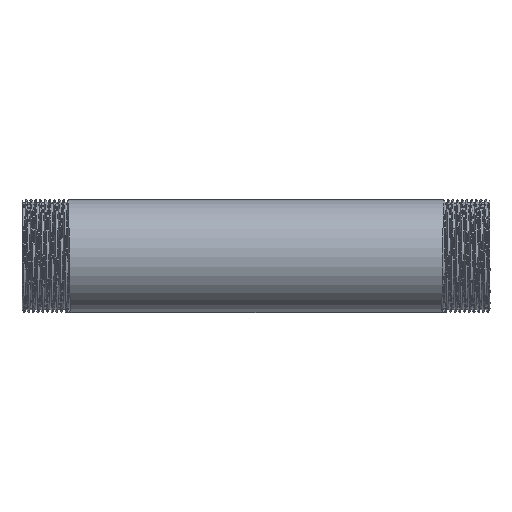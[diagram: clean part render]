
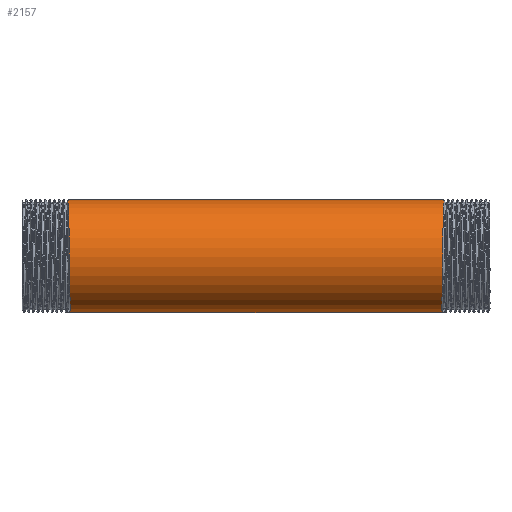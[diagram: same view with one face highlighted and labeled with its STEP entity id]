
A CAD part, front view. The second image highlights one B-rep face of the part: STEP entity #2157.
In plain terms, the highlighted cylindrical face has radius 24.15 mm (diameter 48.3 mm), a partial arc.
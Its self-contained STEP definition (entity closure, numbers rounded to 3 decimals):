
#10 = EDGE_LOOP ( 'NONE', ( #4818, #8409, #5944, #9332 ) ) ;
#18 = CARTESIAN_POINT ( 'NONE',  ( -79.35, -7.847, -24.15 ) ) ;
#128 = CARTESIAN_POINT ( 'NONE',  ( -79.25, 0., -24.15 ) ) ;
#617 = LINE ( 'NONE', #7333, #3604 ) ;
#847 = VERTEX_POINT ( 'NONE', #7812 ) ;
#1171 = CARTESIAN_POINT ( 'NONE',  ( 79.55, -20.543, -14.926 ) ) ;
#1220 = CARTESIAN_POINT ( 'NONE',  ( 79.95, -20.543, 14.926 ) ) ;
#1590 = CARTESIAN_POINT ( 'NONE',  ( -80.15, -7.847, 24.15 ) ) ;
#1914 = DIRECTION ( 'NONE',  ( -1., 0., 0. ) ) ;
#1967 = CARTESIAN_POINT ( 'NONE',  ( 79.65, -22.968, -7.463 ) ) ;
#2157 = ADVANCED_FACE ( 'NONE', ( #8604 ), #6365, .T. ) ;
#2563 = VECTOR ( 'NONE', #3233, 1000. ) ;
#2918 = DIRECTION ( 'NONE',  ( -1., 0., 0. ) ) ;
#2922 = VERTEX_POINT ( 'NONE', #7242 ) ;
#3076 = CARTESIAN_POINT ( 'NONE',  ( -79.75, -25.393, 0. ) ) ;
#3233 = DIRECTION ( 'NONE',  ( -1., 0., 0. ) ) ;
#3331 = LINE ( 'NONE', #8733, #2563 ) ;
#3604 = VECTOR ( 'NONE', #2918, 1000. ) ;
#4157 = CARTESIAN_POINT ( 'NONE',  ( -149.494, 0., 0. ) ) ;
#4264 = CARTESIAN_POINT ( 'NONE',  ( 79.45, -14.195, -19.538 ) ) ;
#4684 = CARTESIAN_POINT ( 'NONE',  ( -79.95, -20.543, 14.926 ) ) ;
#4818 = ORIENTED_EDGE ( 'NONE', *, *, #6723, .F. ) ;
#5013 = CARTESIAN_POINT ( 'NONE',  ( 79.75, -25.393, 0. ) ) ;
#5259 = VERTEX_POINT ( 'NONE', #8575 ) ;
#5333 = CARTESIAN_POINT ( 'NONE',  ( -80.25, 0., 24.15 ) ) ;
#5342 =( BOUNDED_CURVE ( )  B_SPLINE_CURVE ( 2, ( #5774, #8816, #4264, #1171, #1967, #5013, #8065, #1220, #7319, #5820, #6613 ),
 .UNSPECIFIED., .F., .F. ) 
 B_SPLINE_CURVE_WITH_KNOTS ( ( 3, 2, 2, 2, 2, 3 ),
 ( 0., 0.008, 0.017, 0.025, 0.033, 0.042 ),
 .UNSPECIFIED. ) 
 CURVE ( )  GEOMETRIC_REPRESENTATION_ITEM ( )  RATIONAL_B_SPLINE_CURVE ( ( 1., 0.951, 1., 0.951, 1., 0.951, 1., 0.951, 1., 0.951, 1. ) ) 
 REPRESENTATION_ITEM ( '' )  );
#5565 = DIRECTION ( 'NONE',  ( 0., 0., 1. ) ) ;
#5774 = CARTESIAN_POINT ( 'NONE',  ( 79.25, 0., -24.15 ) ) ;
#5791 =( BOUNDED_CURVE ( )  B_SPLINE_CURVE ( 2, ( #128, #18, #9890, #6190, #6238, #3076, #8428, #4684, #6792, #1590, #5333 ),
 .UNSPECIFIED., .F., .F. ) 
 B_SPLINE_CURVE_WITH_KNOTS ( ( 3, 2, 2, 2, 2, 3 ),
 ( 0., 0.008, 0.017, 0.025, 0.033, 0.042 ),
 .UNSPECIFIED. ) 
 CURVE ( )  GEOMETRIC_REPRESENTATION_ITEM ( )  RATIONAL_B_SPLINE_CURVE ( ( 1., 0.951, 1., 0.951, 1., 0.951, 1., 0.951, 1., 0.951, 1. ) ) 
 REPRESENTATION_ITEM ( '' )  );
#5820 = CARTESIAN_POINT ( 'NONE',  ( 80.15, -7.847, 24.15 ) ) ;
#5944 = ORIENTED_EDGE ( 'NONE', *, *, #8208, .T. ) ;
#6190 = CARTESIAN_POINT ( 'NONE',  ( -79.55, -20.543, -14.926 ) ) ;
#6202 = AXIS2_PLACEMENT_3D ( 'NONE', #4157, #1914, #5565 ) ;
#6238 = CARTESIAN_POINT ( 'NONE',  ( -79.65, -22.968, -7.463 ) ) ;
#6365 = CYLINDRICAL_SURFACE ( 'NONE', #6202, 24.15 ) ;
#6613 = CARTESIAN_POINT ( 'NONE',  ( 80.25, 0., 24.15 ) ) ;
#6723 = EDGE_CURVE ( 'NONE', #2922, #5259, #617, .T. ) ;
#6792 = CARTESIAN_POINT ( 'NONE',  ( -80.05, -14.195, 19.538 ) ) ;
#7110 = EDGE_CURVE ( 'NONE', #2922, #847, #5342, .T. ) ;
#7242 = CARTESIAN_POINT ( 'NONE',  ( 79.25, 0., -24.15 ) ) ;
#7319 = CARTESIAN_POINT ( 'NONE',  ( 80.05, -14.195, 19.538 ) ) ;
#7333 = CARTESIAN_POINT ( 'NONE',  ( -149.494, 0., -24.15 ) ) ;
#7623 = VERTEX_POINT ( 'NONE', #9790 ) ;
#7812 = CARTESIAN_POINT ( 'NONE',  ( 80.25, 0., 24.15 ) ) ;
#8065 = CARTESIAN_POINT ( 'NONE',  ( 79.85, -22.968, 7.463 ) ) ;
#8098 = EDGE_CURVE ( 'NONE', #5259, #7623, #5791, .T. ) ;
#8208 = EDGE_CURVE ( 'NONE', #847, #7623, #3331, .T. ) ;
#8409 = ORIENTED_EDGE ( 'NONE', *, *, #7110, .T. ) ;
#8428 = CARTESIAN_POINT ( 'NONE',  ( -79.85, -22.968, 7.463 ) ) ;
#8575 = CARTESIAN_POINT ( 'NONE',  ( -79.25, 0., -24.15 ) ) ;
#8604 = FACE_OUTER_BOUND ( 'NONE', #10, .T. ) ;
#8733 = CARTESIAN_POINT ( 'NONE',  ( -149.494, 0., 24.15 ) ) ;
#8816 = CARTESIAN_POINT ( 'NONE',  ( 79.35, -7.847, -24.15 ) ) ;
#9332 = ORIENTED_EDGE ( 'NONE', *, *, #8098, .F. ) ;
#9790 = CARTESIAN_POINT ( 'NONE',  ( -80.25, 0., 24.15 ) ) ;
#9890 = CARTESIAN_POINT ( 'NONE',  ( -79.45, -14.195, -19.538 ) ) ;
